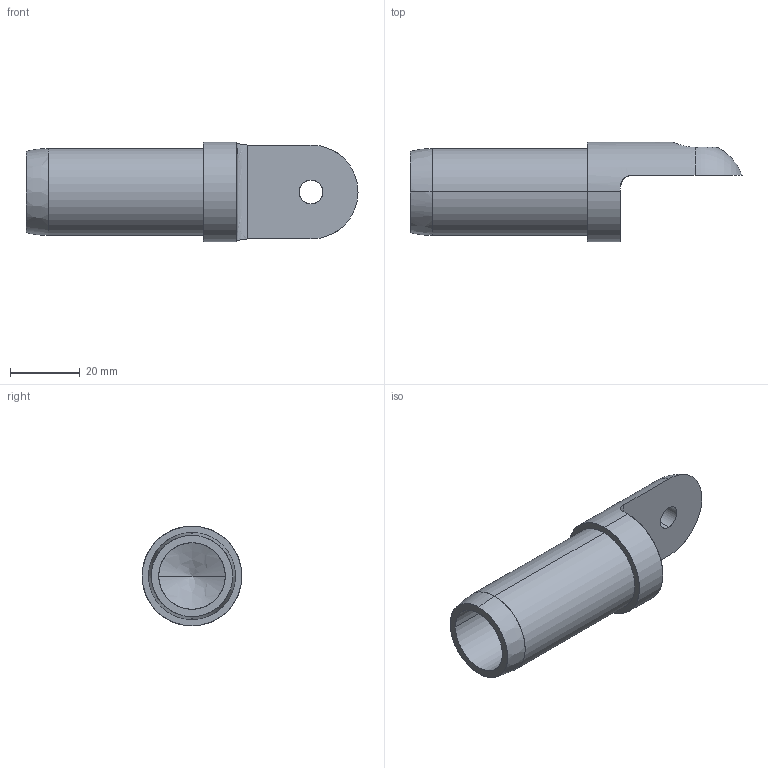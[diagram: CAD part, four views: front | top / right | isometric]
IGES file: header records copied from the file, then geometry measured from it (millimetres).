
Start section: SolidWorks IGES file using analytic representation for surfaces
Global section: file name: \\SERVER3\Design\_New Design Drive Folder List\_Design Vault\AAI\Modular Round Tube Connectors\Solidworks Models\STP Files\12202013\1.000 Inch Modular Connectors\DRP-002-0511-00.IGS; native system: SolidWorks 2013; preprocessor: SolidWorks 2013; author: tbraun; date: 131220.114741; units: inch
Bounding box: 95.16 x 28.57 x 28.57 mm (x, y, z)
Surface area: 11131.8 mm2 (no closed solid volume)
Topology: 0 solids, 0 shells, 20 faces, 480 edges, 478 vertices
Faces by surface type: revolution 13, bspline 7
